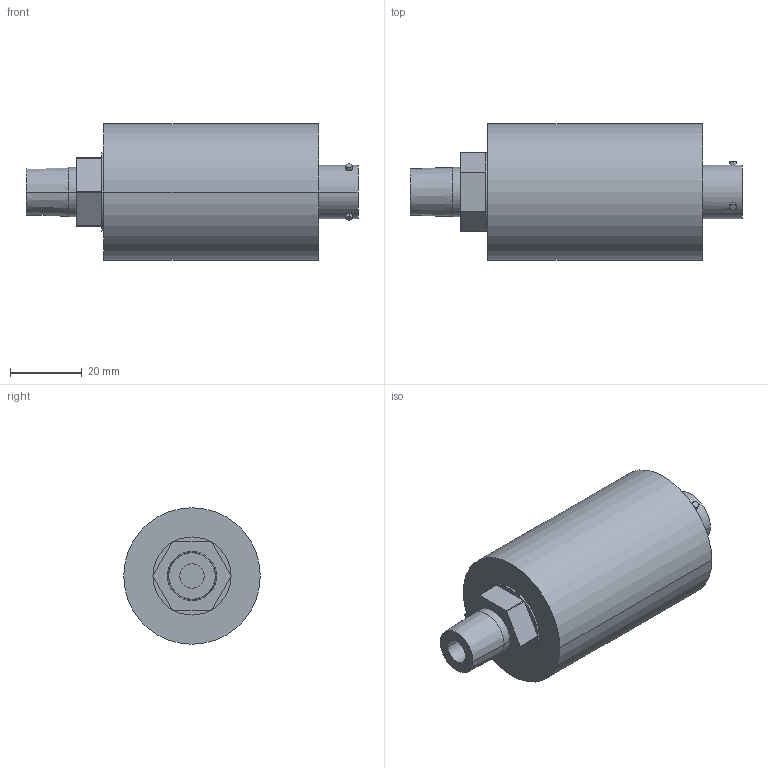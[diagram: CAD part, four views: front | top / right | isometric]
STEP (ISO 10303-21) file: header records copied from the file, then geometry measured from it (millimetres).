
FILE_DESCRIPTION(('STEP AP214'),'1');
FILE_NAME('burster_8267-5100_4stl8pybgj203an0xv6wnhrfi.stp','2017-04-19T20:05:48',('TraceParts'),('TraceParts S.A.'),'Spatial InterOp 3D',' ',' ');
FILE_SCHEMA(('automotive_design'));
Length unit declared in the file: millimetre
Products named in the file (1): burster_8267-5100_4stl8pybgj203an0xv6wnhrfi
Bounding box: 92.7 x 38.1 x 38.1 mm (x, y, z)
Volume: 72819.4 mm3; surface area: 12036.1 mm2
Topology: 1 solids, 1 shells, 60 faces, 133 edges, 88 vertices
Faces by surface type: cylinder 30, plane 28, cone 2
Entity records: 2313 total; most frequent: CARTESIAN_POINT 418, DIRECTION 315, ORIENTED_EDGE 266, EDGE_CURVE 133, AXIS2_PLACEMENT_3D 129, VERTEX_POINT 88, EDGE_LOOP 73, CIRCLE 68
